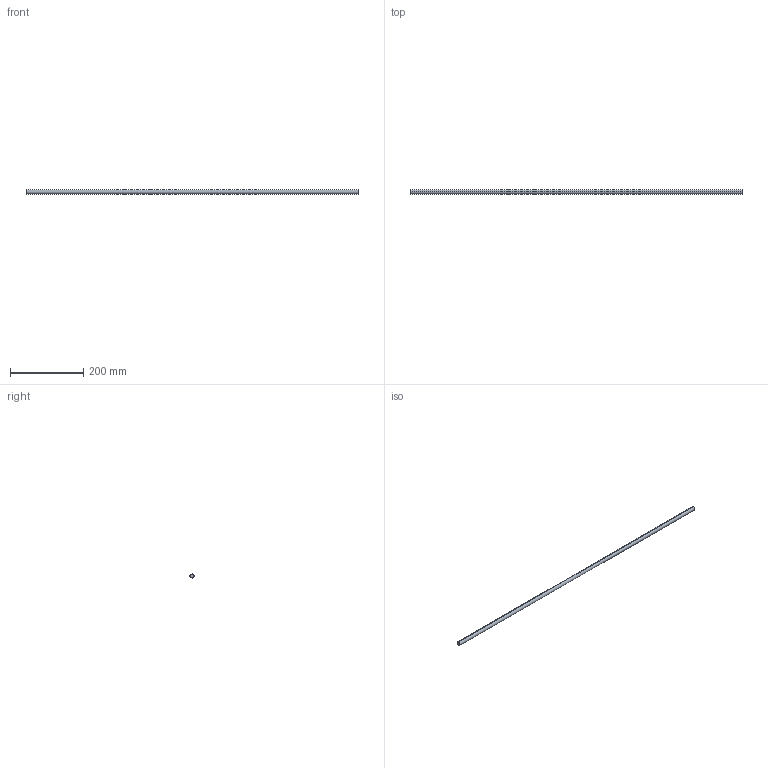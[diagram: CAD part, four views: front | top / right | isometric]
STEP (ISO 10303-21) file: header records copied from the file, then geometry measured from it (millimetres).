
FILE_DESCRIPTION (( 'STEP AP214' ), '1' );
FILE_NAME ('Querreling_Frontblende_Innenlade_KS19_KAB-1000.step', '2010-09-22T15:05:36', ( 'grass' ), ( '' ), 'SwSTEP 2.0', 'SolidWorks 2010', '' );
FILE_SCHEMA (( 'AUTOMOTIVE_DESIGN' ));
Length unit declared in the file: millimetre
Products named in the file (1): Querreling_Frontblende_Innenlade_KS19_KAB-1000
Bounding box: 909 x 11 x 11 mm (x, y, z)
Volume: 86385.2 mm3; surface area: 31602.9 mm2
Topology: 1 solids, 1 shells, 4 faces, 6 edges, 4 vertices
Faces by surface type: cylinder 2, plane 2
Entity records: 128 total; most frequent: DIRECTION 20, CARTESIAN_POINT 15, ORIENTED_EDGE 12, AXIS2_PLACEMENT_3D 9, EDGE_CURVE 6, VERTEX_POINT 4, EDGE_LOOP 4, FACE_OUTER_BOUND 4
